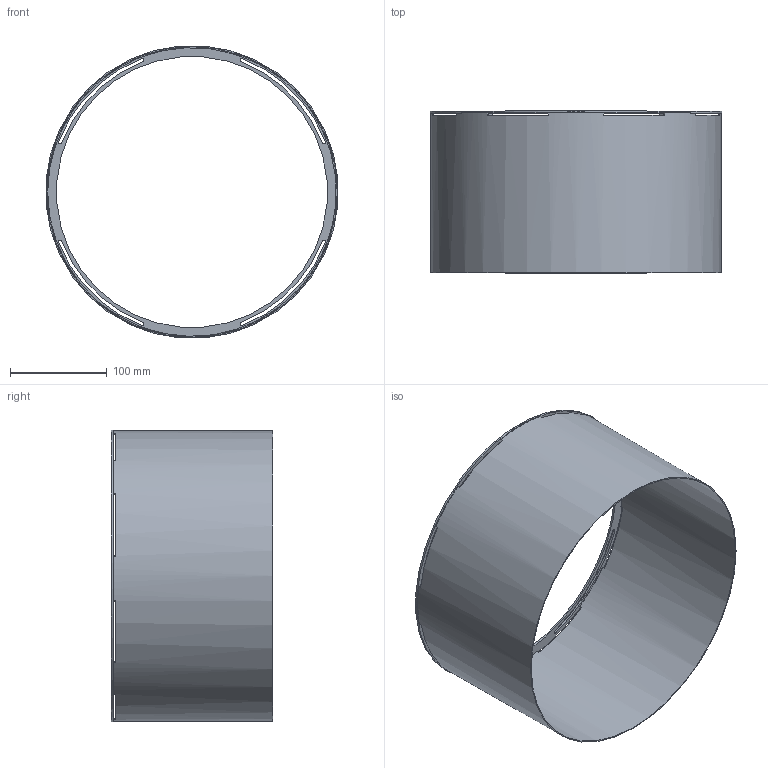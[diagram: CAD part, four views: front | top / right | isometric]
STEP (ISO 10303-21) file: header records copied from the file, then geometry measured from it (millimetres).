
FILE_DESCRIPTION(/* description */ ('Unknown'),/* implementation_level */ '2;1');
FILE_NAME(/* name */ 'TOPHAT- L',/* time_stamp */ '2022-08-22T08:28:04+02:00',/* author */ ('Unknown'),/* organization */ ('Unknown'),/* preprocessor_version */ 'ST-DEVELOPER v18.102',/* originating_system */ 'Solid Edge',/* authorisation */ 'Unknown');
FILE_SCHEMA (('AUTOMOTIVE_DESIGN {1 0 10303 214 3 1 1}'));
Length unit declared in the file: millimetre
Products named in the file (1): 11431127 TOPHAT- L
Bounding box: 301.65 x 167 x 301.65 mm (x, y, z)
Volume: 170836 mm3; surface area: 332719.6 mm2
Topology: 2 solids, 2 shells, 127 faces, 373 edges, 249 vertices
Faces by surface type: plane 89, cylinder 38
Full cylindrical faces by diameter (mm): 280.2 x1, 298.4 x1, 300.4 x1, 302.8 x1
Entity records: 4326 total; most frequent: DIRECTION 764, CARTESIAN_POINT 740, ORIENTED_EDGE 732, EDGE_CURVE 366, AXIS2_PLACEMENT_3D 270, VERTEX_POINT 246, LINE 224, VECTOR 224
